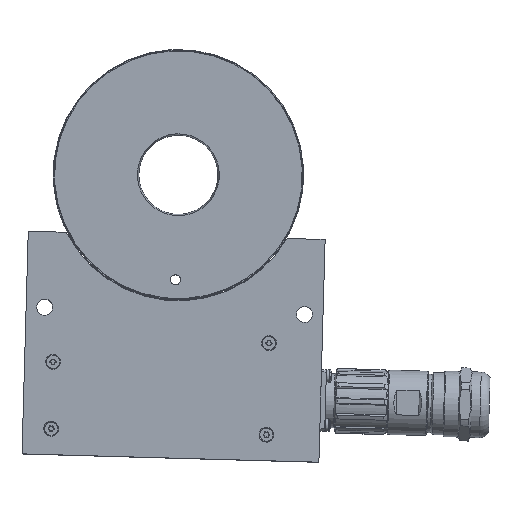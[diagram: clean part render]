
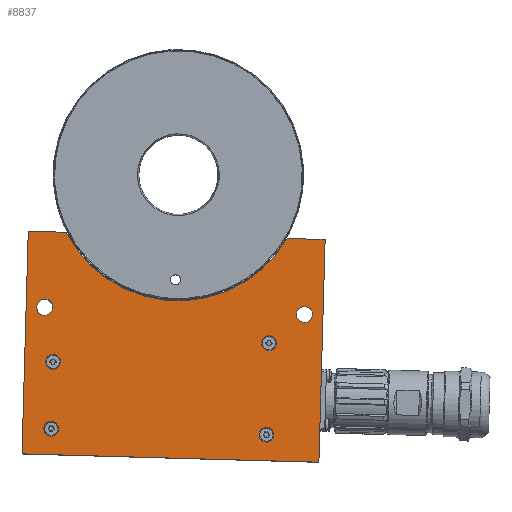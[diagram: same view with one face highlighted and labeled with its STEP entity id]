
A CAD part, top view. The second image highlights one B-rep face of the part: STEP entity #8837.
In plain terms, the highlighted planar face has unit normal (0, 0, 1).
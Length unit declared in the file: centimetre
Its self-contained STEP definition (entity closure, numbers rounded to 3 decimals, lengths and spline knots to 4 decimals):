
#432=LINE('',#15421,#829);
#474=LINE('',#15684,#871);
#477=LINE('',#15689,#874);
#482=LINE('',#15700,#879);
#483=LINE('',#15702,#880);
#829=VECTOR('',#12333,9.);
#871=VECTOR('',#12621,9.);
#874=VECTOR('',#12626,1.535);
#879=VECTOR('',#12639,1.535);
#880=VECTOR('',#12642,12.);
#1545=FACE_BOUND('',#2909,.T.);
#1546=FACE_BOUND('',#2910,.T.);
#1547=FACE_BOUND('',#2911,.T.);
#1548=FACE_BOUND('',#2912,.T.);
#1549=FACE_BOUND('',#2913,.T.);
#1550=FACE_BOUND('',#2914,.T.);
#2071=FACE_OUTER_BOUND('',#2908,.T.);
#2908=EDGE_LOOP('',(#7647,#7648,#7649,#7650,#7651,#7652));
#2909=EDGE_LOOP('',(#7653));
#2910=EDGE_LOOP('',(#7654));
#2911=EDGE_LOOP('',(#7655));
#2912=EDGE_LOOP('',(#7656));
#2913=EDGE_LOOP('',(#7657));
#2914=EDGE_LOOP('',(#7658));
#3589=CIRCLE('',#9945,0.3);
#3591=CIRCLE('',#9949,0.3);
#3593=CIRCLE('',#9953,0.3);
#3595=CIRCLE('',#9957,0.3);
#3599=CIRCLE('',#9967,0.325);
#3600=CIRCLE('',#9969,0.325);
#3605=CIRCLE('',#9980,5.093);
#4380=VERTEX_POINT('',#15419);
#4381=VERTEX_POINT('',#15420);
#4450=VERTEX_POINT('',#15613);
#4452=VERTEX_POINT('',#15619);
#4454=VERTEX_POINT('',#15625);
#4456=VERTEX_POINT('',#15631);
#4462=VERTEX_POINT('',#15654);
#4463=VERTEX_POINT('',#15657);
#4472=VERTEX_POINT('',#15682);
#4473=VERTEX_POINT('',#15683);
#4474=VERTEX_POINT('',#15688);
#4475=VERTEX_POINT('',#15693);
#5461=EDGE_CURVE('',#4380,#4381,#432,.T.);
#5544=EDGE_CURVE('',#4450,#4450,#3589,.T.);
#5546=EDGE_CURVE('',#4452,#4452,#3591,.T.);
#5548=EDGE_CURVE('',#4454,#4454,#3593,.T.);
#5550=EDGE_CURVE('',#4456,#4456,#3595,.T.);
#5557=EDGE_CURVE('',#4462,#4462,#3599,.T.);
#5558=EDGE_CURVE('',#4463,#4463,#3600,.T.);
#5570=EDGE_CURVE('',#4472,#4473,#474,.T.);
#5573=EDGE_CURVE('',#4473,#4474,#477,.T.);
#5576=EDGE_CURVE('',#4474,#4475,#3605,.T.);
#5580=EDGE_CURVE('',#4475,#4380,#482,.T.);
#5581=EDGE_CURVE('',#4381,#4472,#483,.T.);
#7647=ORIENTED_EDGE('',*,*,#5570,.F.);
#7648=ORIENTED_EDGE('',*,*,#5581,.F.);
#7649=ORIENTED_EDGE('',*,*,#5461,.F.);
#7650=ORIENTED_EDGE('',*,*,#5580,.F.);
#7651=ORIENTED_EDGE('',*,*,#5576,.F.);
#7652=ORIENTED_EDGE('',*,*,#5573,.F.);
#7653=ORIENTED_EDGE('',*,*,#5544,.T.);
#7654=ORIENTED_EDGE('',*,*,#5546,.T.);
#7655=ORIENTED_EDGE('',*,*,#5548,.T.);
#7656=ORIENTED_EDGE('',*,*,#5550,.T.);
#7657=ORIENTED_EDGE('',*,*,#5557,.T.);
#7658=ORIENTED_EDGE('',*,*,#5558,.T.);
#8340=PLANE('',#9984);
#8837=ADVANCED_FACE('',(#2071,#1545,#1546,#1547,#1548,#1549,#1550),#8340,
 .F.);
#9945=AXIS2_PLACEMENT_3D('',#15614,#12547,#12548);
#9949=AXIS2_PLACEMENT_3D('',#15620,#12555,#12556);
#9953=AXIS2_PLACEMENT_3D('',#15626,#12563,#12564);
#9957=AXIS2_PLACEMENT_3D('',#15632,#12571,#12572);
#9967=AXIS2_PLACEMENT_3D('',#15655,#12592,#12593);
#9969=AXIS2_PLACEMENT_3D('',#15658,#12596,#12597);
#9980=AXIS2_PLACEMENT_3D('',#15694,#12631,#12632);
#9984=AXIS2_PLACEMENT_3D('',#15703,#12643,#12644);
#12333=DIRECTION('',(-0.028,-1.,0.));
#12547=DIRECTION('center_axis',(0.,0.,-1.));
#12548=DIRECTION('ref_axis',(1.,-0.028,0.));
#12555=DIRECTION('center_axis',(0.,0.,-1.));
#12556=DIRECTION('ref_axis',(1.,-0.028,0.));
#12563=DIRECTION('center_axis',(0.,0.,-1.));
#12564=DIRECTION('ref_axis',(1.,-0.028,0.));
#12571=DIRECTION('center_axis',(0.,0.,-1.));
#12572=DIRECTION('ref_axis',(1.,-0.028,0.));
#12592=DIRECTION('center_axis',(0.,0.,-1.));
#12593=DIRECTION('ref_axis',(-1.,0.028,0.));
#12596=DIRECTION('center_axis',(0.,0.,-1.));
#12597=DIRECTION('ref_axis',(-1.,0.028,0.));
#12621=DIRECTION('',(0.028,1.,0.));
#12626=DIRECTION('',(1.,-0.028,0.));
#12631=DIRECTION('center_axis',(0.,0.,1.));
#12632=DIRECTION('ref_axis',(-0.863,0.505,0.));
#12639=DIRECTION('',(1.,-0.028,0.));
#12642=DIRECTION('',(-1.,0.028,0.));
#12643=DIRECTION('center_axis',(0.,0.,-1.));
#12644=DIRECTION('ref_axis',(-1.,0.028,0.));
#15419=CARTESIAN_POINT('',(5.929,-2.6172,3.));
#15420=CARTESIAN_POINT('',(5.6767,-11.6137,3.));
#15421=CARTESIAN_POINT('',(5.929,-2.6172,3.));
#15613=CARTESIAN_POINT('',(3.8568,-10.5122,3.));
#15614=CARTESIAN_POINT('Origin',(3.5569,-10.5038,3.));
#15619=CARTESIAN_POINT('',(-4.7641,-7.5694,3.));
#15620=CARTESIAN_POINT('Origin',(-5.0639,-7.561,3.));
#15625=CARTESIAN_POINT('',(-4.8398,-10.2684,3.));
#15626=CARTESIAN_POINT('Origin',(-5.1396,-10.26,3.));
#15631=CARTESIAN_POINT('',(3.9605,-6.8137,3.));
#15632=CARTESIAN_POINT('Origin',(3.6607,-6.8053,3.));
#15654=CARTESIAN_POINT('',(5.4186,-5.6541,3.));
#15655=CARTESIAN_POINT('Origin',(5.0938,-5.645,3.));
#15657=CARTESIAN_POINT('',(-5.0772,-5.3598,3.));
#15658=CARTESIAN_POINT('Origin',(-5.4021,-5.3507,3.));
#15682=CARTESIAN_POINT('',(-6.3186,-11.2773,3.));
#15683=CARTESIAN_POINT('',(-6.0663,-2.2808,3.));
#15684=CARTESIAN_POINT('',(-6.3186,-11.2773,3.));
#15688=CARTESIAN_POINT('',(-4.5319,-2.3239,3.));
#15689=CARTESIAN_POINT('',(-6.0663,-2.2808,3.));
#15693=CARTESIAN_POINT('',(4.3946,-2.5742,3.));
#15694=CARTESIAN_POINT('Origin',(0.,0.,3.));
#15700=CARTESIAN_POINT('',(4.3946,-2.5742,3.));
#15702=CARTESIAN_POINT('',(5.6767,-11.6137,3.));
#15703=CARTESIAN_POINT('Origin',(-0.2,-7.132,3.));
